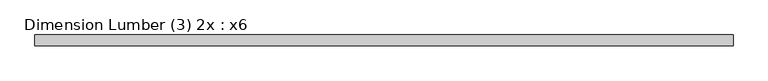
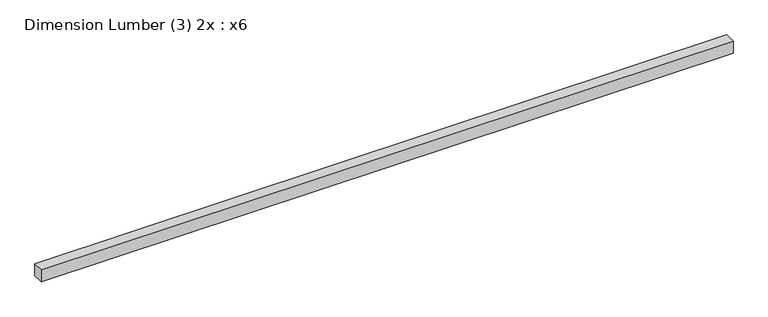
"""IFC4 building model written with IfcOpenShell, lengths in millimetres: beam geometry, Dimension Lumber (3) 2x : x6."""

from ifc_helpers import new_model, si_unit, frame, origin, place, context, project, spatial, polyline, outline, extrude, source, transform, mapped, element, save


def dimension_lumber_3_2x_x6_4af72cf2(model_context):
    return source(origin(), model_context, "Body", "SweptSolid", [
        extrude(outline(polyline([(3796.2332, 57.15), (3796.2332, -57.15), (-3648.6662069, -57.15), (-3648.6662069, 57.15), (3796.2332, 57.15)])), frame((0.0, 0.0, -69.85), z_axis=(0.0, 0.0, 1.0), x_axis=(1.0, 0.0, 0.0)), (0.0, 0.0, 1.0), 139.7),
    ])


if __name__ == "__main__":
    model = new_model("IFC4")
    model_context = context("Model", 3, world=origin())
    ifc_project = project(units=[si_unit("LENGTHUNIT", "METRE", prefix="MILLI")], contexts=[model_context])
    site = spatial("IfcSite", under=ifc_project)
    building = spatial("IfcBuilding", under=site)
    placement = place(None, origin())
    dimension_lumber_3_2x_x6_shape = dimension_lumber_3_2x_x6_4af72cf2(model_context)
    element("IfcBeam", 1, ObjectType="Dimension Lumber (3) 2x : x6", at=placement, inside=building, context=model_context, shape_type="MappedRepresentation", body=[
        mapped(dimension_lumber_3_2x_x6_shape, transform((0.0, 0.0, 0.0), x_axis=(1.0, 0.0, 0.0), y_axis=(0.0, 1.0, 0.0), z_axis=(0.0, 0.0, 1.0))),
    ])
    save(model, "model.ifc")
